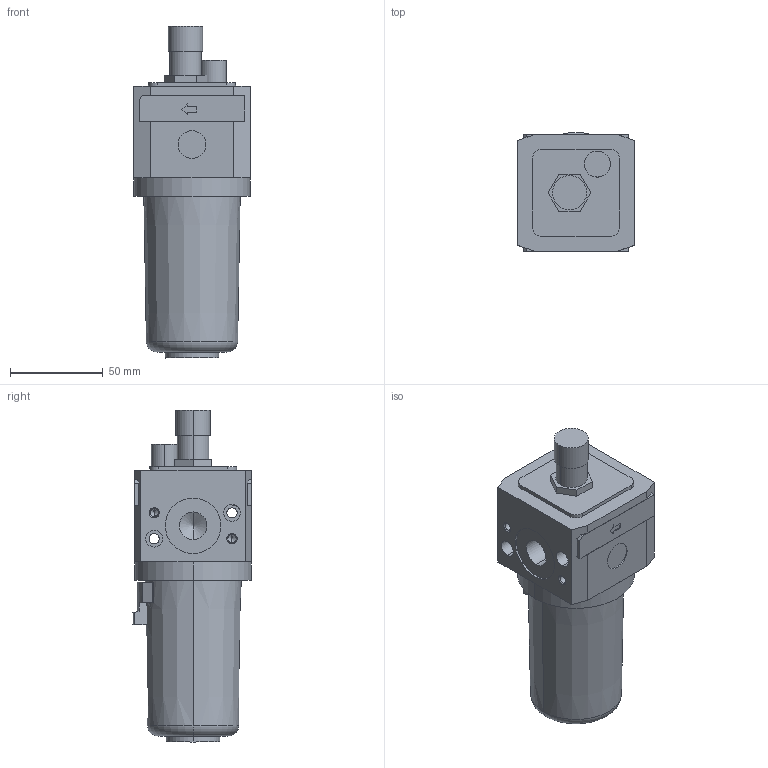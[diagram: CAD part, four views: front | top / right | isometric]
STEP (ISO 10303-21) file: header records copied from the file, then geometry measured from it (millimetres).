
FILE_DESCRIPTION((''),'2;1');
FILE_NAME('I:\DOC-EDP\Lib-3d\FRL\17303A.stp','2003-06-16T14:58:16',('maffial1'),(''),'Autodesk Inventor 7','Autodesk Inventor 7','');
FILE_SCHEMA(('AUTOMOTIVE_DESIGN { 1 0 10303 214 1 1 1 1 }'));
Length unit declared in the file: millimetre
Products named in the file (1): 17303A
Bounding box: 63 x 64.18 x 179.2 mm (x, y, z)
Volume: 396540.3 mm3; surface area: 50033.4 mm2
Topology: 1 solids, 3 shells, 175 faces, 430 edges, 270 vertices
Faces by surface type: plane 69, bspline 57, cylinder 34, cone 13, torus 2
Entity records: 5455 total; most frequent: CARTESIAN_POINT 1427, ORIENTED_EDGE 836, DIRECTION 788, EDGE_CURVE 418, VECTOR 286, LINE 286, VERTEX_POINT 270, AXIS2_PLACEMENT_3D 251
